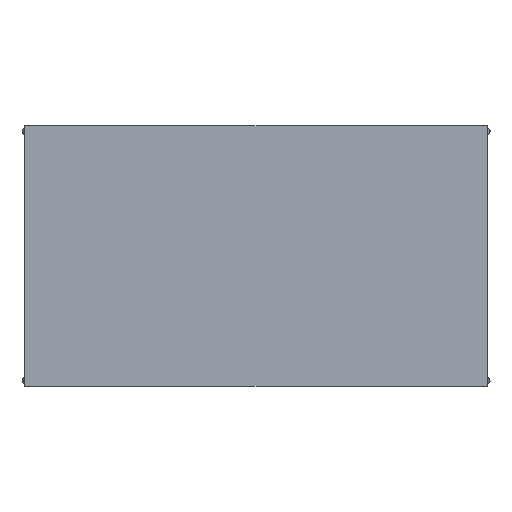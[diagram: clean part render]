
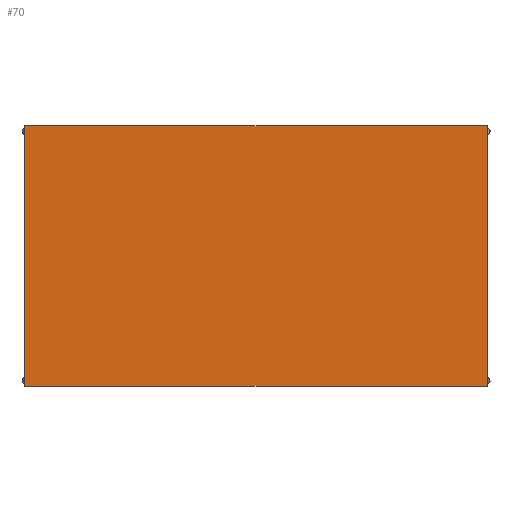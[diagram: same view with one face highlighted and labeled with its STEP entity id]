
A CAD part, top view. The second image highlights one B-rep face of the part: STEP entity #70.
In plain terms, the highlighted planar face has unit normal (0, 0, 1).
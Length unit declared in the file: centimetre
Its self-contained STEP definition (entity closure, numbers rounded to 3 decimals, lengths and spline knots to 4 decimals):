
#70=ADVANCED_FACE($,(#156),#960,.T.);
#156=FACE_OUTER_BOUND($,#242,.T.);
#242=EDGE_LOOP($,(#460,#461,#462,#463));
#460=ORIENTED_EDGE($,*,*,#711,.F.);
#461=ORIENTED_EDGE($,*,*,#710,.F.);
#462=ORIENTED_EDGE($,*,*,#709,.F.);
#463=ORIENTED_EDGE($,*,*,#708,.F.);
#708=EDGE_CURVE($,#846,#847,#1098,.T.);
#709=EDGE_CURVE($,#847,#848,#1099,.T.);
#710=EDGE_CURVE($,#848,#849,#1100,.T.);
#711=EDGE_CURVE($,#849,#846,#1101,.T.);
#846=VERTEX_POINT($,#2085);
#847=VERTEX_POINT($,#2086);
#848=VERTEX_POINT($,#2087);
#849=VERTEX_POINT($,#2088);
#960=PLANE($,#1274);
#1098=B_SPLINE_CURVE_WITH_KNOTS($,1,(#2055,#2056),.UNSPECIFIED.,.F.,.F.,
(2,2),(0.,90.),.UNSPECIFIED.);
#1099=B_SPLINE_CURVE_WITH_KNOTS($,1,(#2057,#2058),.UNSPECIFIED.,.F.,.F.,
(2,2),(0.,160.),.UNSPECIFIED.);
#1100=B_SPLINE_CURVE_WITH_KNOTS($,1,(#2059,#2060),.UNSPECIFIED.,.F.,.F.,
(2,2),(0.,90.),.UNSPECIFIED.);
#1101=B_SPLINE_CURVE_WITH_KNOTS($,1,(#2061,#2062),.UNSPECIFIED.,.F.,.F.,
(2,2),(0.,160.),.UNSPECIFIED.);
#1274=AXIS2_PLACEMENT_3D($,#2083,#1331,$);
#1331=DIRECTION($,(0.,0.,1.));
#2055=CARTESIAN_POINT($,(0.,-0.5,75.95));
#2056=CARTESIAN_POINT($,(0.,89.5,75.95));
#2057=CARTESIAN_POINT($,(0.,89.5,75.95));
#2058=CARTESIAN_POINT($,(160.,89.5,75.95));
#2059=CARTESIAN_POINT($,(160.,89.5,75.95));
#2060=CARTESIAN_POINT($,(160.,-0.5,75.95));
#2061=CARTESIAN_POINT($,(160.,-0.5,75.95));
#2062=CARTESIAN_POINT($,(0.,-0.5,75.95));
#2083=CARTESIAN_POINT($,(0.,-0.5,75.95));
#2085=CARTESIAN_POINT($,(0.,-0.5,75.95));
#2086=CARTESIAN_POINT($,(0.,89.5,75.95));
#2087=CARTESIAN_POINT($,(160.,89.5,75.95));
#2088=CARTESIAN_POINT($,(160.,-0.5,75.95));
